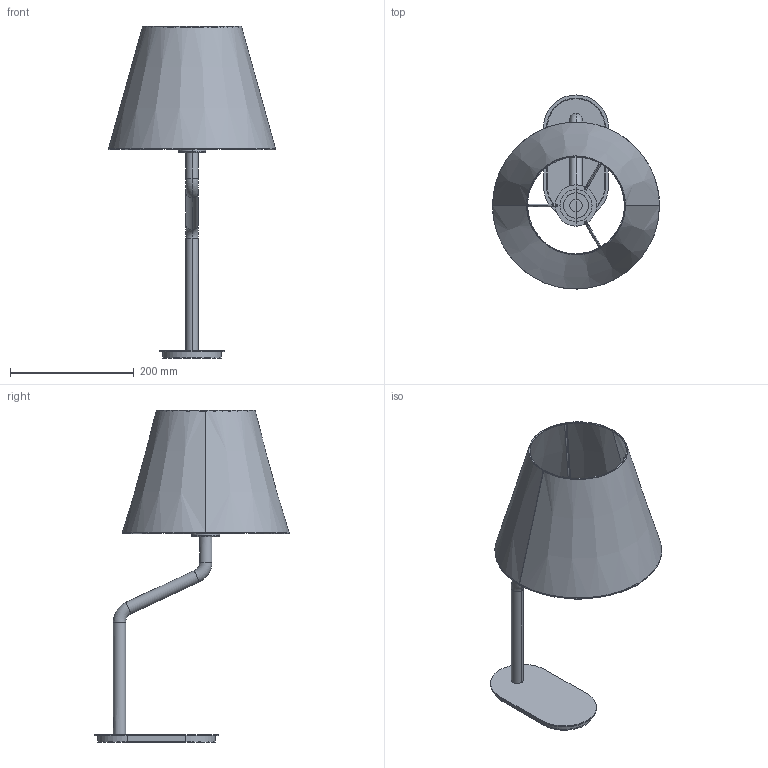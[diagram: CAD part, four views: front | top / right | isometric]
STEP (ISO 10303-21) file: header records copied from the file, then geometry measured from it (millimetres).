
FILE_DESCRIPTION(/* description */ (''),/* implementation_level */ '2;1');
FILE_NAME(/* name */ 'C:\Users\FrancoSartori\Documents\FARO\01_En Proceso\00_ETERNA\03_Publicación\24008-14.stp',/* time_stamp */ '2021-06-01T11:13:28+02:00',/* author */ ('FrancoSartori'),/* organization */ (''),/* preprocessor_version */ 'ST-DEVELOPER v18.1',/* originating_system */ 'AutoCAD Mechanical',/* authorisation */ '');
FILE_SCHEMA (('AUTOMOTIVE_DESIGN { 1 0 10303 214 3 1 1 }'));
Length unit declared in the file: millimetre
Products named in the file (3): Product; 24008-13_ 24008-14_ 24008-15_ - STR-589367-_3D_; 2P0221 - 2P0221 White textile shade-589382-_3D_
Assembly tree (2 placements, depth 2):
  Product
    24008-13_ 24008-14_ 24008-15_ - STR-589367-_3D_
    2P0221 - 2P0221 White textile shade-589382-_3D_
Bounding box: 269.97 x 314.44 x 536.93 mm (x, y, z)
Volume: 432122.8 mm3; surface area: 690502.3 mm2
Topology: 10 solids, 10 shells, 119 faces, 260 edges, 156 vertices
Faces by surface type: cylinder 48, plane 41, torus 18, cone 12
Entity records: 5811 total; most frequent: CARTESIAN_POINT 3219, ORIENTED_EDGE 520, DIRECTION 500, EDGE_CURVE 260, AXIS2_PLACEMENT_3D 194, VERTEX_POINT 156, EDGE_LOOP 122, FACE_OUTER_BOUND 119
